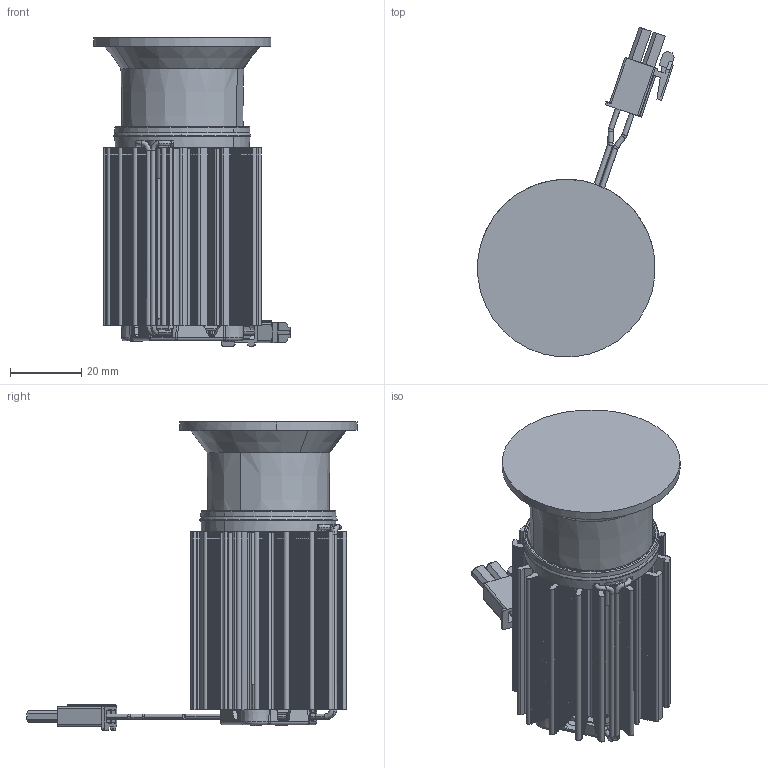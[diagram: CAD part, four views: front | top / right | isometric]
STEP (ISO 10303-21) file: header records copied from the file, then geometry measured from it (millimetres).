
FILE_DESCRIPTION(('Creo Elements/Direct Modeling STEP Export'),'2;1');
FILE_NAME('ACTIVE_9.2_PLUS.stp','2018-02-21T10:05:45',(''),(''),'Creo Elements/Direct Modeling STEP processor for AP214 (Solid Model)','Creo Elements/Direct Modeling 19.0F 14-Feb-2017 (C) Parametric Technology GmbH','');
FILE_SCHEMA(('AUTOMOTIVE_DESIGN { 1 0 10303 214 1 1 1 1 }'));
Length unit declared in the file: millimetre
Products named in the file (27): RIFLETTORE_METALLIZZAZIONE.PRT; SERRACAVO_1.PRT; DISSIPATORE; V8_BXRE_SM_PRT.PRT; V8_BXRE_BASE_ROUND_CENTER_PRT_1.PRT; V8_BXRE_RD_PRT.PRT; V8_BXRE_PH_PRT.PRT; CUT-EXTRUDE1_4__PRT.PRT; CUT-EXTRUDE1_8__PRT.PRT; CUT-EXTRUDE1_3__PRT.PRT; CUT-EXTRUDE1_6__PRT.PRT; CUT-EXTRUDE1_7__PRT.PRT; CUT-EXTRUDE1_2__PRT.PRT; CUT-EXTRUDE1_5__PRT.PRT; CUT-EXTRUDE1_1__PRT.PRT; V8_BXRE_METAL_ASM.ASM; V8_BXRE; CAVO_CONN_1; CAVO_1; CAVO_1.2; CAVO_CONN_2; COP_MASCHIO; CAVO_CONN_3; CONNETTORE.ASM; LED.ASM; HOLDER_12_5X12_5; ACTIVE_9.2_PLUS
Assembly tree (26 placements, depth 5):
  ACTIVE_9.2_PLUS
    HOLDER_12_5X12_5
    LED.ASM
      CONNETTORE.ASM
        CAVO_CONN_3
        COP_MASCHIO
        CAVO_CONN_2
        CAVO_1.2
        CAVO_1
        CAVO_CONN_1
      V8_BXRE
        V8_BXRE_METAL_ASM.ASM
          CUT-EXTRUDE1_1__PRT.PRT
          CUT-EXTRUDE1_5__PRT.PRT
          CUT-EXTRUDE1_2__PRT.PRT
          CUT-EXTRUDE1_7__PRT.PRT
          CUT-EXTRUDE1_6__PRT.PRT
          CUT-EXTRUDE1_3__PRT.PRT
          CUT-EXTRUDE1_8__PRT.PRT
          CUT-EXTRUDE1_4__PRT.PRT
        V8_BXRE_PH_PRT.PRT
        V8_BXRE_RD_PRT.PRT
        V8_BXRE_BASE_ROUND_CENTER_PRT_1.PRT
        V8_BXRE_SM_PRT.PRT
    DISSIPATORE
    SERRACAVO_1.PRT
    RIFLETTORE_METALLIZZAZIONE.PRT
Bounding box: 55.27 x 92.81 x 86.67 mm (x, y, z)
Volume: 67047.4 mm3; surface area: 47157.3 mm2
Topology: 22 solids, 22 shells, 2414 faces, 6772 edges, 4364 vertices
Faces by surface type: plane 1407, cylinder 550, bspline 196, torus 112, cone 91, sphere 58
Entity records: 88391 total; most frequent: CARTESIAN_POINT 25285, ORIENTED_EDGE 13430, DIRECTION 11742, EDGE_CURVE 6715, VECTOR 4394, LINE 4394, VERTEX_POINT 4364, AXIS2_PLACEMENT_3D 3674
